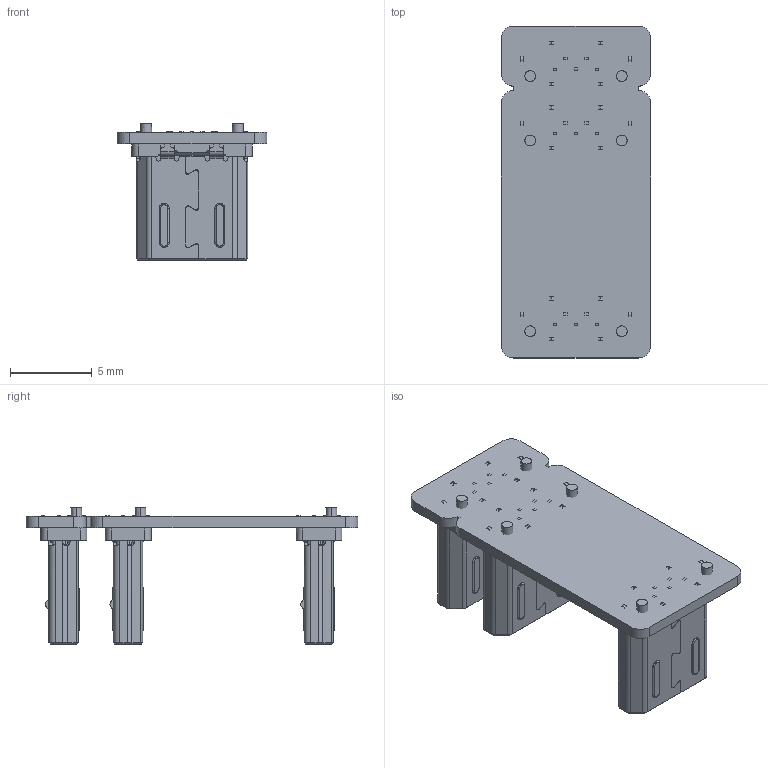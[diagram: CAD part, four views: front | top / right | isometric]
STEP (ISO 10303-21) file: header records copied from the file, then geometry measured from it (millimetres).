
FILE_DESCRIPTION(('Open CASCADE Model'),'2;1');
FILE_NAME('Open CASCADE Shape Model','2021-04-20T18:56:43',('Author'),( 'Open CASCADE'),'Open CASCADE STEP processor 6.8','Open CASCADE 6.8' ,'Unknown');
FILE_SCHEMA(('AUTOMOTIVE_DESIGN { 1 0 10303 214 1 1 1 1 }'));
Length unit declared in the file: millimetre
Products named in the file (12): PCB; Board; Open CASCADE STEP translator 6.8 16.1.1; J1; USB3150-30-075-A_revA2; HOUSING; CONTACT; CONTACT-1; CONTACT-2; Shell; J2; J3
Assembly tree (15 placements, depth 4):
  PCB
    Board
      Open CASCADE STEP translator 6.8 16.1.1
    J1
      USB3150-30-075-A_revA2
        HOUSING
        CONTACT
        CONTACT-1  x2
        CONTACT-2  x2
        Shell
    J2
      USB3150-30-075-A_revA2
        HOUSING
        CONTACT
        CONTACT-1  x2
        CONTACT-2  x2
        Shell
    J3
      USB3150-30-075-A_revA2
        HOUSING
        CONTACT
        CONTACT-1  x2
        CONTACT-2  x2
        Shell
Bounding box: 9.14 x 20.32 x 8.38 mm (x, y, z)
Volume: 347.7 mm3; surface area: 1833.5 mm2
Topology: 22 solids, 22 shells, 2373 faces, 6798 edges, 4472 vertices
Faces by surface type: plane 1417, cylinder 896, cone 30, bspline 30
Entity records: 23446 total; most frequent: CARTESIAN_POINT 4687, ORIENTED_EDGE 3968, DIRECTION 3832, EDGE_CURVE 1984, LINE 1418, VECTOR 1418, VERTEX_POINT 1304, AXIS2_PLACEMENT_3D 1207
